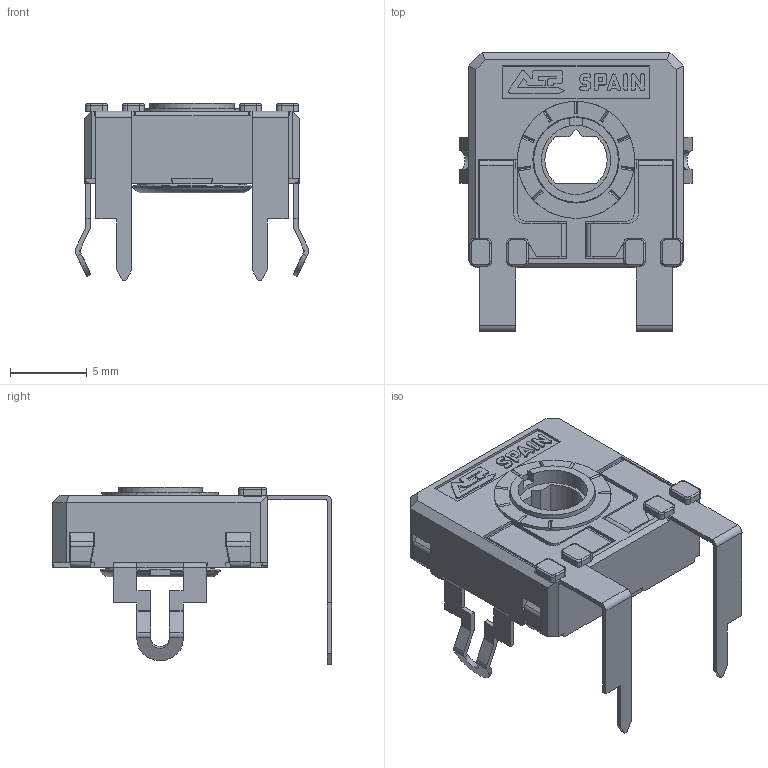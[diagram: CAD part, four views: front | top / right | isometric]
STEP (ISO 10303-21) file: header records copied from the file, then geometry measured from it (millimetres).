
FILE_DESCRIPTION(/* description */ (''),/* implementation_level */ '2;1');
FILE_NAME(/* name */ 'COMCA14KVD11.stp',/* time_stamp */ '2026-04-01T17:02:59+02:00',/* author */ ('CEM'),/* organization */ (''),/* preprocessor_version */ 'ST-DEVELOPER v20.1',/* originating_system */ 'Autodesk Inventor 2026',/* authorisation */ '');
FILE_SCHEMA (('AUTOMOTIVE_DESIGN { 1 0 10303 214 3 1 1 }'));
Length unit declared in the file: millimetre
Products named in the file (1): CARCASA CA14 PGA
Bounding box: 15.16 x 18.15 x 11.5 mm (x, y, z)
Volume: 546.8 mm3; surface area: 1589.8 mm2
Topology: 1 solids, 1 shells, 725 faces, 2054 edges, 1321 vertices
Faces by surface type: plane 529, cylinder 159, torus 23, bspline 8, cone 6
Full cylindrical faces by diameter (mm): 4.5 x1, 5.5 x1, 5.6 x1, 5.752 x1, 6.8 x1, 7.6 x1
Entity records: 23763 total; most frequent: CARTESIAN_POINT 4398, ORIENTED_EDGE 4108, DIRECTION 3846, EDGE_CURVE 2054, LINE 1608, VECTOR 1608, VERTEX_POINT 1321, AXIS2_PLACEMENT_3D 1119
